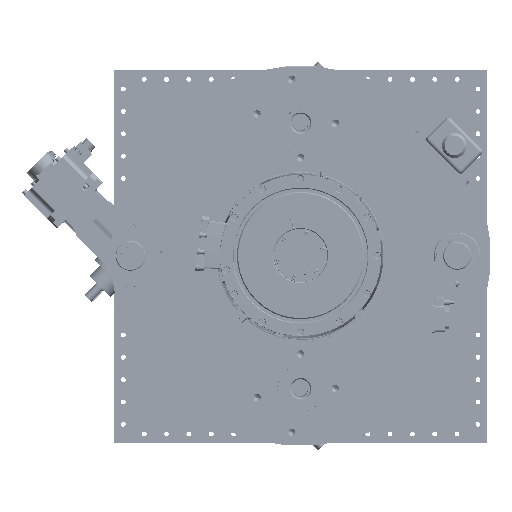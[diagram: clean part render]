
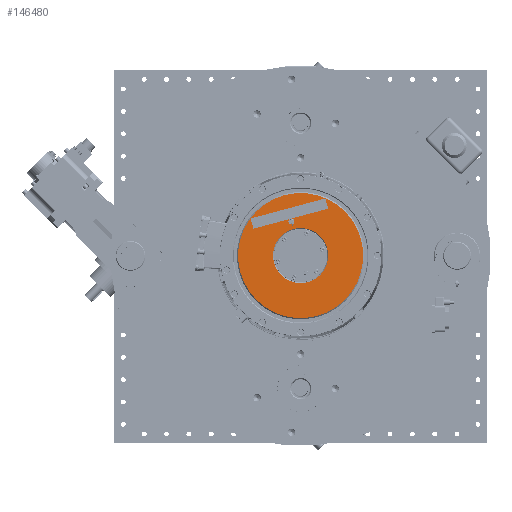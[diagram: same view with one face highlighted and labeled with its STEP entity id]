
A CAD part, top view. The second image highlights one B-rep face of the part: STEP entity #146480.
In plain terms, the highlighted planar face has unit normal (0, 0, 1).
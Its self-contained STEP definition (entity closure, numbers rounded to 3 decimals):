
#6914=FACE_BOUND('',#23394,.T.);
#6915=FACE_BOUND('',#23395,.T.);
#9411=PLANE('',#158003);
#15086=FACE_OUTER_BOUND('',#23393,.T.);
#23393=EDGE_LOOP('',(#110284));
#23394=EDGE_LOOP('',(#110285,#110286,#110287,#110288,#110289,#110290));
#23395=EDGE_LOOP('',(#110291));
#33988=LINE('',#249556,#43924);
#33989=LINE('',#249558,#43925);
#33990=LINE('',#249560,#43926);
#33991=LINE('',#249562,#43927);
#33992=LINE('',#249563,#43928);
#43924=VECTOR('',#185050,10.);
#43925=VECTOR('',#185051,10.);
#43926=VECTOR('',#185052,10.);
#43927=VECTOR('',#185053,10.);
#43928=VECTOR('',#185054,10.);
#51528=CIRCLE('',#157995,8.);
#51532=CIRCLE('',#158001,74.);
#51533=CIRCLE('',#158004,167.975);
#62356=VERTEX_POINT('',#249493);
#62359=VERTEX_POINT('',#249498);
#62363=VERTEX_POINT('',#249510);
#62366=VERTEX_POINT('',#249553);
#62367=VERTEX_POINT('',#249555);
#62368=VERTEX_POINT('',#249557);
#62369=VERTEX_POINT('',#249559);
#62370=VERTEX_POINT('',#249561);
#79654=EDGE_CURVE('',#62356,#62359,#51528,.T.);
#79660=EDGE_CURVE('',#62363,#62363,#51532,.T.);
#79663=EDGE_CURVE('',#62366,#62366,#51533,.T.);
#79664=EDGE_CURVE('',#62367,#62356,#33988,.T.);
#79665=EDGE_CURVE('',#62359,#62368,#33989,.T.);
#79666=EDGE_CURVE('',#62368,#62369,#33990,.T.);
#79667=EDGE_CURVE('',#62369,#62370,#33991,.T.);
#79668=EDGE_CURVE('',#62370,#62367,#33992,.T.);
#110284=ORIENTED_EDGE('',*,*,#79663,.T.);
#110285=ORIENTED_EDGE('',*,*,#79664,.T.);
#110286=ORIENTED_EDGE('',*,*,#79654,.T.);
#110287=ORIENTED_EDGE('',*,*,#79665,.T.);
#110288=ORIENTED_EDGE('',*,*,#79666,.T.);
#110289=ORIENTED_EDGE('',*,*,#79667,.T.);
#110290=ORIENTED_EDGE('',*,*,#79668,.T.);
#110291=ORIENTED_EDGE('',*,*,#79660,.F.);
#146480=ADVANCED_FACE('',(#15086,#6914,#6915),#9411,.T.);
#157995=AXIS2_PLACEMENT_3D('',#249500,#185028,#185029);
#158001=AXIS2_PLACEMENT_3D('',#249512,#185042,#185043);
#158003=AXIS2_PLACEMENT_3D('',#249552,#185046,#185047);
#158004=AXIS2_PLACEMENT_3D('',#249554,#185048,#185049);
#185028=DIRECTION('center_axis',(0.,0.,
-1.));
#185029=DIRECTION('ref_axis',(0.966,0.26,0.));
#185042=DIRECTION('center_axis',(0.,0.,
1.));
#185043=DIRECTION('ref_axis',(-0.26,0.966,0.));
#185046=DIRECTION('center_axis',(0.,0.,
1.));
#185047=DIRECTION('ref_axis',(0.966,0.26,0.));
#185048=DIRECTION('center_axis',(0.,0.,
1.));
#185049=DIRECTION('ref_axis',(-0.26,0.966,0.));
#185050=DIRECTION('',(-0.966,-0.26,0.));
#185051=DIRECTION('',(-0.966,-0.26,0.));
#185052=DIRECTION('',(-0.26,0.966,0.));
#185053=DIRECTION('',(0.966,0.26,0.));
#185054=DIRECTION('',(0.26,-0.966,0.));
#249493=CARTESIAN_POINT('',(-23.806,99.692,1804.6));
#249498=CARTESIAN_POINT('',(-29.417,98.183,1804.6));
#249500=CARTESIAN_POINT('Origin',(-24.675,91.74,1804.6));
#249510=CARTESIAN_POINT('',(19.221,-71.46,1804.6));
#249512=CARTESIAN_POINT('Origin',(0.,0.,
1804.6));
#249552=CARTESIAN_POINT('Origin',(-32.013,119.023,1804.6));
#249553=CARTESIAN_POINT('',(43.629,-162.21,1804.6));
#249554=CARTESIAN_POINT('Origin',(0.,0.,
1804.6));
#249555=CARTESIAN_POINT('',(73.773,125.938,1804.6));
#249556=CARTESIAN_POINT('',(23.581,112.438,1804.6));
#249557=CARTESIAN_POINT('',(-126.665,72.026,1804.6));
#249558=CARTESIAN_POINT('',(23.581,112.438,1804.6));
#249559=CARTESIAN_POINT('',(-134.054,99.497,1804.6));
#249560=CARTESIAN_POINT('',(-129.366,82.069,1804.6));
#249561=CARTESIAN_POINT('',(66.384,153.409,1804.6));
#249562=CARTESIAN_POINT('',(-84.027,112.953,1804.6));
#249563=CARTESIAN_POINT('',(67.377,149.716,1804.6));
